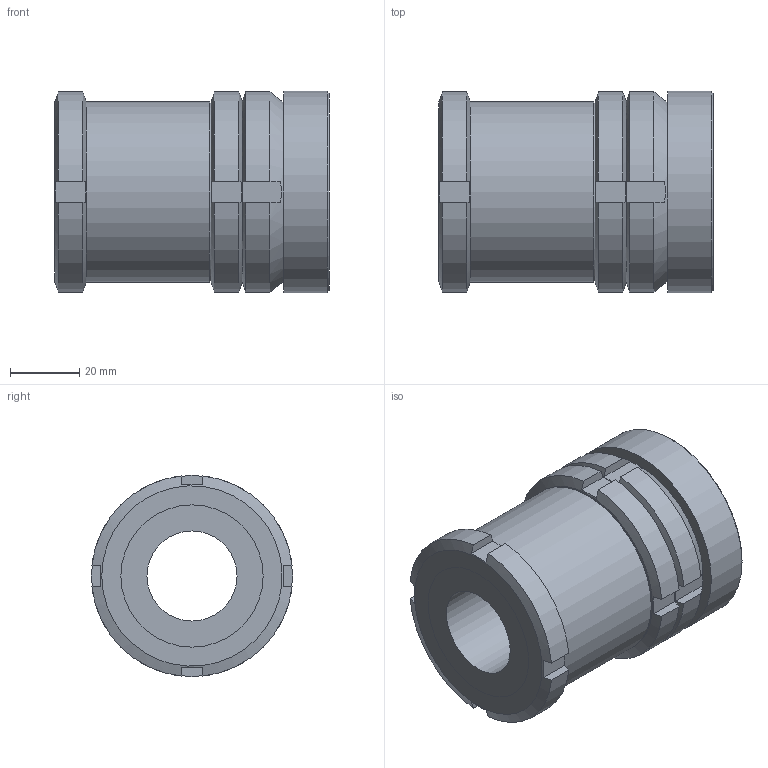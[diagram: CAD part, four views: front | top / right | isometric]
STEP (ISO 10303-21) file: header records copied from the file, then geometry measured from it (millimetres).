
FILE_DESCRIPTION( ( 'STEP AP203' ), '1' );
FILE_NAME( 'C:/Temp/Ganter_Step_05_03_2020/data/3_2/gn350_5/gn350_5_ni/Stainless Steel-Levelling set GN 350.5-58-26-79-NI (0-0).stp', '2020-03-13T05:28:55', ( 'License CC BY-ND 4.0' ), ( 'CADENAS' ), ' ', 'PARTsolutions', ' ' );
FILE_SCHEMA( ( 'CONFIG_CONTROL_DESIGN' ) );
Length unit declared in the file: millimetre
Products named in the file (5): Stainless Steel-Levelling set GN 350.5-58-26-79-NI (0-0); _Levelling set GN 350.5-58-26-79-ST-G; _Levelling set GN 350.5-58-26-79-ST-K; _Levelling set GN 350.5-58-26-79-ST-P(0); _Levelling set GN 350.5-58-26-53-ST-KM
Assembly tree (4 placements, depth 2):
  Stainless Steel-Levelling set GN 350.5-58-26-79-NI (0-0)
    _Levelling set GN 350.5-58-26-79-ST-G
    _Levelling set GN 350.5-58-26-79-ST-K
    _Levelling set GN 350.5-58-26-79-ST-P(0)
    _Levelling set GN 350.5-58-26-53-ST-KM
Bounding box: 79 x 58 x 58 mm (x, y, z)
Volume: 142889.9 mm3; surface area: 48395.7 mm2
Topology: 4 solids, 4 shells, 85 faces, 211 edges, 140 vertices
Faces by surface type: plane 50, cylinder 24, cone 9, sphere 2
Full cylindrical faces by diameter (mm): 26 x1, 31.5 x1, 33.485 x1, 34.5 x1, 38.376 x1, 38.917 x1, 39 x1, 40 x1, 41 x2, 52 x1, 58 x1
Entity records: 2696 total; most frequent: CARTESIAN_POINT 698, DIRECTION 368, ORIENTED_EDGE 356, EDGE_CURVE 178, AXIS2_PLACEMENT_3D 160, VERTEX_POINT 130, EDGE_LOOP 122, FACE_OUTER_BOUND 99
